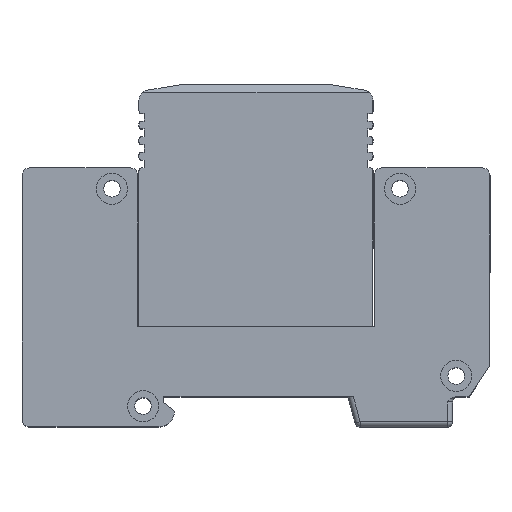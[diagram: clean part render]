
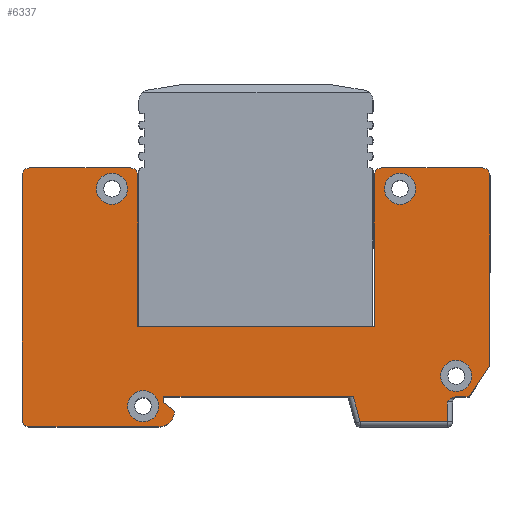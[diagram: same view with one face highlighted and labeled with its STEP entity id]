
A CAD part, top view. The second image highlights one B-rep face of the part: STEP entity #6337.
In plain terms, the highlighted planar face has unit normal (0, 0, 1).
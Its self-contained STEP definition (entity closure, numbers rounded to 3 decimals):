
#92=FACE_BOUND('',#793,.T.);
#93=FACE_BOUND('',#794,.T.);
#94=FACE_BOUND('',#795,.T.);
#95=FACE_BOUND('',#796,.T.);
#108=B_SPLINE_CURVE_WITH_KNOTS('',3,(#9915,#9916,#9917,#9918,#9919,#9920),
 .UNSPECIFIED.,.F.,.F.,(4,2,4),(0.506,0.582,0.7),
 .UNSPECIFIED.);
#258=CIRCLE('',#6819,1.5);
#259=CIRCLE('',#6820,1.5);
#260=CIRCLE('',#6821,1.5);
#261=CIRCLE('',#6822,3.);
#262=CIRCLE('',#6823,1.5);
#263=CIRCLE('',#6824,1.5);
#264=CIRCLE('',#6825,3.);
#265=CIRCLE('',#6826,3.);
#266=CIRCLE('',#6827,3.);
#267=CIRCLE('',#6828,3.);
#268=CIRCLE('',#6829,3.);
#269=CIRCLE('',#6830,3.);
#270=CIRCLE('',#6831,3.);
#271=CIRCLE('',#6832,3.);
#449=FACE_OUTER_BOUND('',#792,.T.);
#792=EDGE_LOOP('',(#4682,#4683,#4684,#4685,#4686,#4687,#4688,#4689,#4690,
#4691,#4692,#4693,#4694,#4695,#4696,#4697,#4698,#4699,#4700,#4701,#4702,
#4703,#4704));
#793=EDGE_LOOP('',(#4705,#4706));
#794=EDGE_LOOP('',(#4707,#4708));
#795=EDGE_LOOP('',(#4709,#4710));
#796=EDGE_LOOP('',(#4711,#4712));
#1407=LINE('',#9885,#2131);
#1408=LINE('',#9887,#2132);
#1409=LINE('',#9891,#2133);
#1410=LINE('',#9895,#2134);
#1411=LINE('',#9899,#2135);
#1412=LINE('',#9903,#2136);
#1413=LINE('',#9905,#2137);
#1414=LINE('',#9907,#2138);
#1415=LINE('',#9909,#2139);
#1416=LINE('',#9911,#2140);
#1417=LINE('',#9913,#2141);
#1418=LINE('',#9922,#2142);
#1419=LINE('',#9924,#2143);
#1420=LINE('',#9926,#2144);
#1421=LINE('',#9930,#2145);
#1422=LINE('',#9933,#2146);
#2131=VECTOR('',#7840,10.);
#2132=VECTOR('',#7841,10.);
#2133=VECTOR('',#7844,10.);
#2134=VECTOR('',#7847,10.);
#2135=VECTOR('',#7850,10.);
#2136=VECTOR('',#7853,10.);
#2137=VECTOR('',#7854,10.);
#2138=VECTOR('',#7855,10.);
#2139=VECTOR('',#7856,10.);
#2140=VECTOR('',#7857,10.);
#2141=VECTOR('',#7858,10.);
#2142=VECTOR('',#7859,10.);
#2143=VECTOR('',#7860,10.);
#2144=VECTOR('',#7861,10.);
#2145=VECTOR('',#7864,10.);
#2146=VECTOR('',#7867,10.);
#2867=VERTEX_POINT('',#9883);
#2868=VERTEX_POINT('',#9884);
#2869=VERTEX_POINT('',#9886);
#2870=VERTEX_POINT('',#9888);
#2871=VERTEX_POINT('',#9890);
#2872=VERTEX_POINT('',#9892);
#2873=VERTEX_POINT('',#9894);
#2874=VERTEX_POINT('',#9896);
#2875=VERTEX_POINT('',#9898);
#2876=VERTEX_POINT('',#9900);
#2877=VERTEX_POINT('',#9902);
#2878=VERTEX_POINT('',#9904);
#2879=VERTEX_POINT('',#9906);
#2880=VERTEX_POINT('',#9908);
#2881=VERTEX_POINT('',#9910);
#2882=VERTEX_POINT('',#9912);
#2883=VERTEX_POINT('',#9914);
#2884=VERTEX_POINT('',#9921);
#2885=VERTEX_POINT('',#9923);
#2886=VERTEX_POINT('',#9925);
#2887=VERTEX_POINT('',#9927);
#2888=VERTEX_POINT('',#9929);
#2889=VERTEX_POINT('',#9931);
#2890=VERTEX_POINT('',#9934);
#2891=VERTEX_POINT('',#9935);
#2892=VERTEX_POINT('',#9938);
#2893=VERTEX_POINT('',#9939);
#2894=VERTEX_POINT('',#9942);
#2895=VERTEX_POINT('',#9943);
#2896=VERTEX_POINT('',#9946);
#2897=VERTEX_POINT('',#9947);
#3560=EDGE_CURVE('',#2867,#2868,#1407,.T.);
#3561=EDGE_CURVE('',#2868,#2869,#1408,.T.);
#3562=EDGE_CURVE('',#2870,#2869,#258,.T.);
#3563=EDGE_CURVE('',#2870,#2871,#1409,.T.);
#3564=EDGE_CURVE('',#2872,#2871,#259,.T.);
#3565=EDGE_CURVE('',#2872,#2873,#1410,.T.);
#3566=EDGE_CURVE('',#2874,#2873,#260,.T.);
#3567=EDGE_CURVE('',#2874,#2875,#1411,.T.);
#3568=EDGE_CURVE('',#2875,#2876,#261,.T.);
#3569=EDGE_CURVE('',#2876,#2877,#1412,.T.);
#3570=EDGE_CURVE('',#2877,#2878,#1413,.T.);
#3571=EDGE_CURVE('',#2878,#2879,#1414,.T.);
#3572=EDGE_CURVE('',#2880,#2879,#1415,.T.);
#3573=EDGE_CURVE('',#2881,#2880,#1416,.T.);
#3574=EDGE_CURVE('',#2882,#2881,#1417,.T.);
#3575=EDGE_CURVE('',#2883,#2882,#108,.T.);
#3576=EDGE_CURVE('',#2884,#2883,#1418,.T.);
#3577=EDGE_CURVE('',#2884,#2885,#1419,.T.);
#3578=EDGE_CURVE('',#2885,#2886,#1420,.T.);
#3579=EDGE_CURVE('',#2887,#2886,#262,.T.);
#3580=EDGE_CURVE('',#2887,#2888,#1421,.T.);
#3581=EDGE_CURVE('',#2889,#2888,#263,.T.);
#3582=EDGE_CURVE('',#2889,#2867,#1422,.T.);
#3583=EDGE_CURVE('',#2890,#2891,#264,.T.);
#3584=EDGE_CURVE('',#2891,#2890,#265,.T.);
#3585=EDGE_CURVE('',#2892,#2893,#266,.T.);
#3586=EDGE_CURVE('',#2893,#2892,#267,.T.);
#3587=EDGE_CURVE('',#2894,#2895,#268,.T.);
#3588=EDGE_CURVE('',#2895,#2894,#269,.T.);
#3589=EDGE_CURVE('',#2896,#2897,#270,.T.);
#3590=EDGE_CURVE('',#2897,#2896,#271,.T.);
#4682=ORIENTED_EDGE('',*,*,#3560,.T.);
#4683=ORIENTED_EDGE('',*,*,#3561,.T.);
#4684=ORIENTED_EDGE('',*,*,#3562,.F.);
#4685=ORIENTED_EDGE('',*,*,#3563,.T.);
#4686=ORIENTED_EDGE('',*,*,#3564,.F.);
#4687=ORIENTED_EDGE('',*,*,#3565,.T.);
#4688=ORIENTED_EDGE('',*,*,#3566,.F.);
#4689=ORIENTED_EDGE('',*,*,#3567,.T.);
#4690=ORIENTED_EDGE('',*,*,#3568,.T.);
#4691=ORIENTED_EDGE('',*,*,#3569,.T.);
#4692=ORIENTED_EDGE('',*,*,#3570,.T.);
#4693=ORIENTED_EDGE('',*,*,#3571,.T.);
#4694=ORIENTED_EDGE('',*,*,#3572,.F.);
#4695=ORIENTED_EDGE('',*,*,#3573,.F.);
#4696=ORIENTED_EDGE('',*,*,#3574,.F.);
#4697=ORIENTED_EDGE('',*,*,#3575,.F.);
#4698=ORIENTED_EDGE('',*,*,#3576,.F.);
#4699=ORIENTED_EDGE('',*,*,#3577,.T.);
#4700=ORIENTED_EDGE('',*,*,#3578,.T.);
#4701=ORIENTED_EDGE('',*,*,#3579,.F.);
#4702=ORIENTED_EDGE('',*,*,#3580,.T.);
#4703=ORIENTED_EDGE('',*,*,#3581,.F.);
#4704=ORIENTED_EDGE('',*,*,#3582,.T.);
#4705=ORIENTED_EDGE('',*,*,#3583,.T.);
#4706=ORIENTED_EDGE('',*,*,#3584,.T.);
#4707=ORIENTED_EDGE('',*,*,#3585,.T.);
#4708=ORIENTED_EDGE('',*,*,#3586,.T.);
#4709=ORIENTED_EDGE('',*,*,#3587,.T.);
#4710=ORIENTED_EDGE('',*,*,#3588,.T.);
#4711=ORIENTED_EDGE('',*,*,#3589,.T.);
#4712=ORIENTED_EDGE('',*,*,#3590,.T.);
#6078=PLANE('',#6818);
#6337=ADVANCED_FACE('',(#449,#92,#93,#94,#95),#6078,.T.);
#6818=AXIS2_PLACEMENT_3D('',#9882,#7838,#7839);
#6819=AXIS2_PLACEMENT_3D('',#9889,#7842,#7843);
#6820=AXIS2_PLACEMENT_3D('',#9893,#7845,#7846);
#6821=AXIS2_PLACEMENT_3D('',#9897,#7848,#7849);
#6822=AXIS2_PLACEMENT_3D('',#9901,#7851,#7852);
#6823=AXIS2_PLACEMENT_3D('',#9928,#7862,#7863);
#6824=AXIS2_PLACEMENT_3D('',#9932,#7865,#7866);
#6825=AXIS2_PLACEMENT_3D('',#9936,#7868,#7869);
#6826=AXIS2_PLACEMENT_3D('',#9937,#7870,#7871);
#6827=AXIS2_PLACEMENT_3D('',#9940,#7872,#7873);
#6828=AXIS2_PLACEMENT_3D('',#9941,#7874,#7875);
#6829=AXIS2_PLACEMENT_3D('',#9944,#7876,#7877);
#6830=AXIS2_PLACEMENT_3D('',#9945,#7878,#7879);
#6831=AXIS2_PLACEMENT_3D('',#9948,#7880,#7881);
#6832=AXIS2_PLACEMENT_3D('',#9949,#7882,#7883);
#7838=DIRECTION('center_axis',(0.,0.,1.));
#7839=DIRECTION('ref_axis',(1.,0.,0.));
#7840=DIRECTION('',(-1.,0.,0.));
#7841=DIRECTION('',(0.,1.,0.));
#7842=DIRECTION('center_axis',(0.,0.,-1.));
#7843=DIRECTION('ref_axis',(0.707,0.707,0.));
#7844=DIRECTION('',(-1.,0.,0.));
#7845=DIRECTION('center_axis',(0.,0.,-1.));
#7846=DIRECTION('ref_axis',(-0.707,0.707,0.));
#7847=DIRECTION('',(0.,-1.,0.));
#7848=DIRECTION('center_axis',(0.,0.,-1.));
#7849=DIRECTION('ref_axis',(-0.707,-0.707,0.));
#7850=DIRECTION('',(1.,0.,0.));
#7851=DIRECTION('center_axis',(0.,0.,1.));
#7852=DIRECTION('ref_axis',(0.,-1.,0.));
#7853=DIRECTION('',(-0.781,0.625,0.));
#7854=DIRECTION('',(0.,1.,0.));
#7855=DIRECTION('',(1.,0.,0.));
#7856=DIRECTION('',(-0.259,0.966,0.));
#7857=DIRECTION('',(-1.,0.,0.));
#7858=DIRECTION('',(0.,-1.,0.));
#7859=DIRECTION('',(-1.,0.,0.));
#7860=DIRECTION('',(0.555,0.832,0.));
#7861=DIRECTION('',(0.,1.,0.));
#7862=DIRECTION('center_axis',(0.,0.,-1.));
#7863=DIRECTION('ref_axis',(0.707,0.707,0.));
#7864=DIRECTION('',(-1.,0.,0.));
#7865=DIRECTION('center_axis',(0.,0.,-1.));
#7866=DIRECTION('ref_axis',(-0.707,0.707,0.));
#7867=DIRECTION('',(0.,-1.,0.));
#7868=DIRECTION('center_axis',(0.,0.,-1.));
#7869=DIRECTION('ref_axis',(1.,0.,0.));
#7870=DIRECTION('center_axis',(0.,0.,-1.));
#7871=DIRECTION('ref_axis',(1.,0.,0.));
#7872=DIRECTION('center_axis',(0.,0.,-1.));
#7873=DIRECTION('ref_axis',(1.,0.,0.));
#7874=DIRECTION('center_axis',(0.,0.,-1.));
#7875=DIRECTION('ref_axis',(1.,0.,0.));
#7876=DIRECTION('center_axis',(0.,0.,-1.));
#7877=DIRECTION('ref_axis',(1.,0.,0.));
#7878=DIRECTION('center_axis',(0.,0.,-1.));
#7879=DIRECTION('ref_axis',(1.,0.,0.));
#7880=DIRECTION('center_axis',(0.,0.,-1.));
#7881=DIRECTION('ref_axis',(1.,0.,0.));
#7882=DIRECTION('center_axis',(0.,0.,-1.));
#7883=DIRECTION('ref_axis',(1.,0.,0.));
#9882=CARTESIAN_POINT('Origin',(-0.615,-5.122,17.5));
#9883=CARTESIAN_POINT('',(22.7,-16.5,17.5));
#9884=CARTESIAN_POINT('',(-22.7,-16.5,17.5));
#9885=CARTESIAN_POINT('',(-11.558,-16.5,17.5));
#9886=CARTESIAN_POINT('',(-22.7,12.5,17.5));
#9887=CARTESIAN_POINT('',(-22.7,-10.811,17.5));
#9888=CARTESIAN_POINT('',(-24.2,14.,17.5));
#9889=CARTESIAN_POINT('Origin',(-24.2,12.5,17.5));
#9890=CARTESIAN_POINT('',(-43.5,14.,17.5));
#9891=CARTESIAN_POINT('',(-22.5,14.,17.5));
#9892=CARTESIAN_POINT('',(-45.,12.5,17.5));
#9893=CARTESIAN_POINT('Origin',(-43.5,12.5,17.5));
#9894=CARTESIAN_POINT('',(-45.,-34.3,17.5));
#9895=CARTESIAN_POINT('',(-45.,14.,17.5));
#9896=CARTESIAN_POINT('',(-43.5,-35.8,17.5));
#9897=CARTESIAN_POINT('Origin',(-43.5,-34.3,17.5));
#9898=CARTESIAN_POINT('',(-18.7,-35.8,17.5));
#9899=CARTESIAN_POINT('',(-45.,-35.8,17.5));
#9900=CARTESIAN_POINT('',(-15.7,-32.8,17.5));
#9901=CARTESIAN_POINT('Origin',(-18.7,-32.8,17.5));
#9902=CARTESIAN_POINT('',(-17.7,-31.2,17.5));
#9903=CARTESIAN_POINT('',(-15.7,-32.8,17.5));
#9904=CARTESIAN_POINT('',(-17.7,-30.,17.5));
#9905=CARTESIAN_POINT('',(-17.7,-31.2,17.5));
#9906=CARTESIAN_POINT('',(18.735,-30.,17.5));
#9907=CARTESIAN_POINT('',(-17.7,-30.,17.5));
#9908=CARTESIAN_POINT('',(20.021,-34.8,17.5));
#9909=CARTESIAN_POINT('',(14.943,-15.846,17.5));
#9910=CARTESIAN_POINT('',(36.8,-34.8,17.5));
#9911=CARTESIAN_POINT('',(9.319,-34.8,17.5));
#9912=CARTESIAN_POINT('',(36.8,-31.,17.5));
#9913=CARTESIAN_POINT('',(36.8,-20.461,17.5));
#9914=CARTESIAN_POINT('',(38.532,-30.,17.5));
#9915=CARTESIAN_POINT('Ctrl Pts',(38.532,-30.,17.5));
#9916=CARTESIAN_POINT('Ctrl Pts',(38.277,-30.,17.5));
#9917=CARTESIAN_POINT('Ctrl Pts',(37.985,-30.09,17.5));
#9918=CARTESIAN_POINT('Ctrl Pts',(37.415,-30.396,17.5));
#9919=CARTESIAN_POINT('Ctrl Pts',(37.077,-30.723,17.5));
#9920=CARTESIAN_POINT('Ctrl Pts',(36.8,-31.,17.5));
#9921=CARTESIAN_POINT('',(41.,-30.,17.5));
#9922=CARTESIAN_POINT('',(18.592,-30.,17.5));
#9923=CARTESIAN_POINT('',(45.,-24.,17.5));
#9924=CARTESIAN_POINT('',(41.,-30.,17.5));
#9925=CARTESIAN_POINT('',(45.,12.5,17.5));
#9926=CARTESIAN_POINT('',(45.,-24.,17.5));
#9927=CARTESIAN_POINT('',(43.5,14.,17.5));
#9928=CARTESIAN_POINT('Origin',(43.5,12.5,17.5));
#9929=CARTESIAN_POINT('',(24.2,14.,17.5));
#9930=CARTESIAN_POINT('',(45.,14.,17.5));
#9931=CARTESIAN_POINT('',(22.7,12.5,17.5));
#9932=CARTESIAN_POINT('Origin',(24.2,12.5,17.5));
#9933=CARTESIAN_POINT('',(22.7,4.439,17.5));
#9934=CARTESIAN_POINT('',(41.5,-26.,17.5));
#9935=CARTESIAN_POINT('',(35.5,-26.,17.5));
#9936=CARTESIAN_POINT('Origin',(38.5,-26.,17.5));
#9937=CARTESIAN_POINT('Origin',(38.5,-26.,17.5));
#9938=CARTESIAN_POINT('',(30.7,10.,17.5));
#9939=CARTESIAN_POINT('',(24.7,10.,17.5));
#9940=CARTESIAN_POINT('Origin',(27.7,10.,17.5));
#9941=CARTESIAN_POINT('Origin',(27.7,10.,17.5));
#9942=CARTESIAN_POINT('',(-24.7,10.,17.5));
#9943=CARTESIAN_POINT('',(-30.7,10.,17.5));
#9944=CARTESIAN_POINT('Origin',(-27.7,10.,17.5));
#9945=CARTESIAN_POINT('Origin',(-27.7,10.,17.5));
#9946=CARTESIAN_POINT('',(-18.7,-31.8,17.5));
#9947=CARTESIAN_POINT('',(-24.7,-31.8,17.5));
#9948=CARTESIAN_POINT('Origin',(-21.7,-31.8,17.5));
#9949=CARTESIAN_POINT('Origin',(-21.7,-31.8,17.5));
